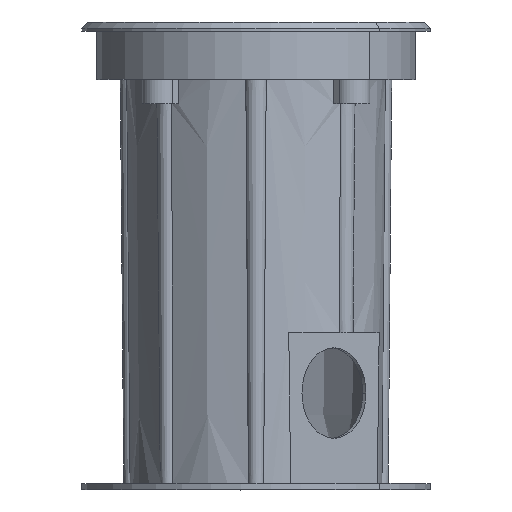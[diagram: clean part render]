
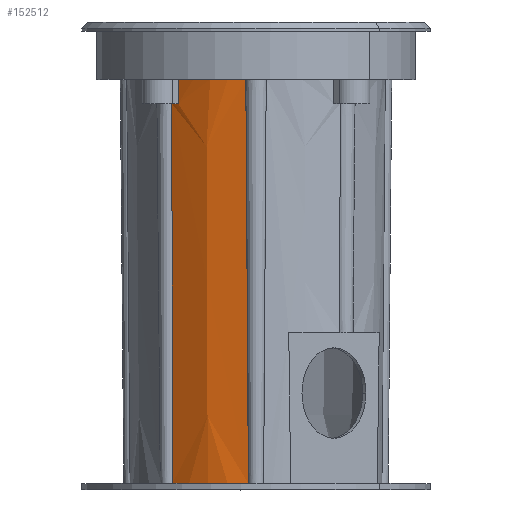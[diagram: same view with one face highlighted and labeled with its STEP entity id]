
A CAD part, top view. The second image highlights one B-rep face of the part: STEP entity #152512.
In plain terms, the highlighted conical face has half-angle 0.5 degrees and reference radius 42.415 mm.
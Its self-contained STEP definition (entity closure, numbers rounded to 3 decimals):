
#147261=CARTESIAN_POINT('',(0.,0.,0.));
#147262=DIRECTION('',(0.,1.,0.));
#147263=DIRECTION('',(-0.061,0.,-0.998));
#147264=AXIS2_PLACEMENT_3D('',#147261,#147262,#147263);
#147943=CARTESIAN_POINT('',(0.,134.,0.));
#147944=DIRECTION('',(0.,-1.,0.));
#147945=DIRECTION('',(-0.649,0.,-0.761));
#147946=AXIS2_PLACEMENT_3D('',#147943,#147944,#147945);
#148179=CARTESIAN_POINT('',(-27.735,0.,
-31.314));
#148180=CARTESIAN_POINT('',(-27.741,8.342,
-31.406));
#148181=CARTESIAN_POINT('',(-27.756,25.363,
-31.59));
#148182=CARTESIAN_POINT('',(-27.789,52.657,
-31.879));
#148183=CARTESIAN_POINT('',(-27.826,79.456,
-32.156));
#148184=CARTESIAN_POINT('',(-27.868,105.781,
-32.423));
#148185=CARTESIAN_POINT('',(-27.901,124.483,
-32.61));
#148186=CARTESIAN_POINT('',(-27.919,134.,-32.704));
#148188=CARTESIAN_POINT('',(-2.531,0.,
-41.754));
#148189=CARTESIAN_POINT('',(-2.588,7.871,
-41.819));
#148190=CARTESIAN_POINT('',(-2.701,23.914,
-41.953));
#148191=CARTESIAN_POINT('',(-2.872,49.551,
-42.165));
#148192=CARTESIAN_POINT('',(-3.032,74.751,
-42.375));
#148193=CARTESIAN_POINT('',(-3.183,99.53,
-42.58));
#148194=CARTESIAN_POINT('',(-3.286,117.078,
-42.726));
#148195=CARTESIAN_POINT('',(-3.338,126.,-42.8));
#148217=CARTESIAN_POINT('',(0.,126.,0.));
#148218=DIRECTION('',(0.,-1.,0.));
#148219=DIRECTION('',(-0.14,0.,-0.99));
#148220=AXIS2_PLACEMENT_3D('',#148217,#148218,#148219);
#148266=CARTESIAN_POINT('',(-6.,134.,-42.579));
#148267=CARTESIAN_POINT('',(-6.,131.333,-42.556));
#148268=CARTESIAN_POINT('',(-6.,128.667,-42.532));
#148269=CARTESIAN_POINT('',(-6.,126.,-42.509));
#150493=CARTESIAN_POINT('',(-2.531,0.,
-41.754));
#150494=VERTEX_POINT('',#150493);
#150495=CARTESIAN_POINT('',(-27.735,0.,
-31.314));
#150496=VERTEX_POINT('',#150495);
#150717=CARTESIAN_POINT('',(-27.919,134.,-32.704));
#150718=VERTEX_POINT('',#150717);
#150719=CARTESIAN_POINT('',(-6.,134.,-42.579));
#150720=VERTEX_POINT('',#150719);
#150768=CARTESIAN_POINT('',(-6.,126.,-42.509));
#150769=CARTESIAN_POINT('',(-3.338,126.,-42.8));
#150770=VERTEX_POINT('',#150768);
#150771=VERTEX_POINT('',#150769);
#152496=CARTESIAN_POINT('',(0.,67.,0.));
#152497=DIRECTION('',(0.,1.,0.));
#152498=DIRECTION('',(1.,0.,0.));
#152499=AXIS2_PLACEMENT_3D('',#152496,#152497,#152498);
#152500=CONICAL_SURFACE('',#152499,42.415,0.5);
#152502=ORIENTED_EDGE('',*,*,#152501,.F.);
#152504=ORIENTED_EDGE('',*,*,#152503,.F.);
#152505=ORIENTED_EDGE('',*,*,#152189,.F.);
#152506=ORIENTED_EDGE('',*,*,#152488,.F.);
#152507=ORIENTED_EDGE('',*,*,#151491,.F.);
#152509=ORIENTED_EDGE('',*,*,#152508,.T.);
#152510=EDGE_LOOP('',(#152502,#152504,#152505,#152506,#152507,#152509));
#152511=FACE_OUTER_BOUND('',#152510,.F.);
#152512=ADVANCED_FACE('',(#152511),#152500,.T.);
#147265=CIRCLE('',#147264,41.831);
#147947=CIRCLE('',#147946,43.);
#148187=B_SPLINE_CURVE_WITH_KNOTS('',3,(#148179,#148180,#148181,#148182,#148183,
#148184,#148185,#148186),.UNSPECIFIED.,.F.,.F.,(4,1,1,1,1,4),(0.,0.2,0.4,
0.6,0.8,1.),.UNSPECIFIED.);
#148196=B_SPLINE_CURVE_WITH_KNOTS('',3,(#148188,#148189,#148190,#148191,#148192,
#148193,#148194,#148195),.UNSPECIFIED.,.F.,.F.,(4,1,1,1,1,4),(0.,0.2,0.4,
0.6,0.8,1.),.UNSPECIFIED.);
#148221=CIRCLE('',#148220,42.93);
#148270=B_SPLINE_CURVE_WITH_KNOTS('',3,(#148266,#148267,#148268,#148269),
.UNSPECIFIED.,.F.,.F.,(4,4),(0.,1.),.UNSPECIFIED.);
#151491=EDGE_CURVE('',#150494,#150496,#147265,.T.);
#152189=EDGE_CURVE('',#150718,#150720,#147947,.T.);
#152488=EDGE_CURVE('',#150496,#150718,#148187,.T.);
#152501=EDGE_CURVE('',#150770,#150771,#148221,.T.);
#152503=EDGE_CURVE('',#150720,#150770,#148270,.T.);
#152508=EDGE_CURVE('',#150494,#150771,#148196,.T.);
